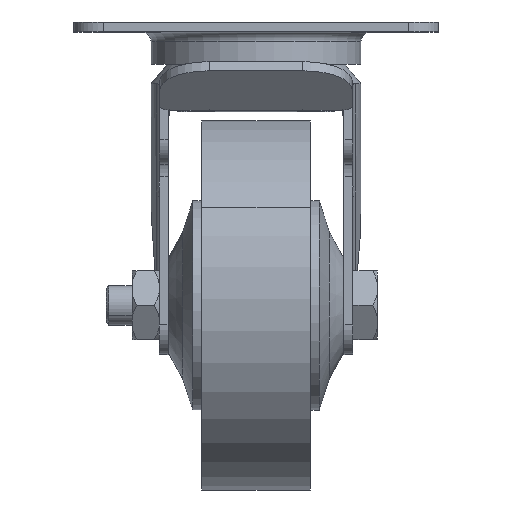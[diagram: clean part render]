
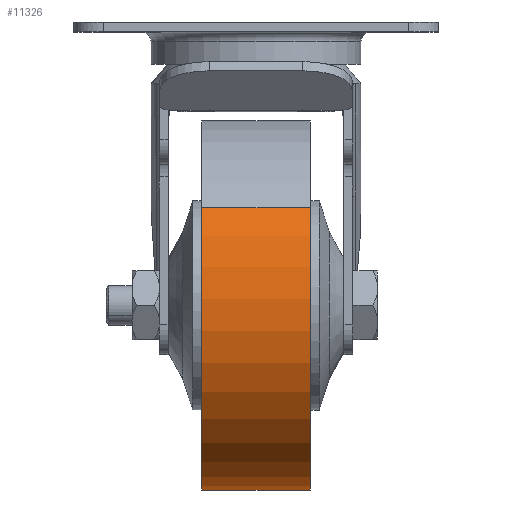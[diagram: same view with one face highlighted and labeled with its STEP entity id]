
A CAD part, top view. The second image highlights one B-rep face of the part: STEP entity #11326.
In plain terms, the highlighted cylindrical face has radius 37.5 mm (diameter 75 mm), a partial arc.
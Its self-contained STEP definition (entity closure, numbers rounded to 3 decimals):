
#474 = CARTESIAN_POINT ( 'NONE',  ( -37.5, 0., 11. ) ) ;
#507 = CARTESIAN_POINT ( 'NONE',  ( 37.5, 0., -11. ) ) ;
#807 = VERTEX_POINT ( 'NONE', #1422 ) ;
#1151 = LINE ( 'NONE', #4708, #3512 ) ;
#1422 = CARTESIAN_POINT ( 'NONE',  ( 37.5, 0., 11. ) ) ;
#1965 = VERTEX_POINT ( 'NONE', #2962 ) ;
#2645 = CARTESIAN_POINT ( 'NONE',  ( -37.5, 0., 11. ) ) ;
#2962 = CARTESIAN_POINT ( 'NONE',  ( -37.5, 0., -11. ) ) ;
#3170 = DIRECTION ( 'NONE',  ( -1., 0., 0. ) ) ;
#3512 = VECTOR ( 'NONE', #8762, 1000. ) ;
#3565 = EDGE_CURVE ( 'NONE', #1965, #7362, #7219, .T. ) ;
#4136 = AXIS2_PLACEMENT_3D ( 'NONE', #9191, #6163, #3170 ) ;
#4244 = CIRCLE ( 'NONE', #12715, 37.5 ) ;
#4285 = ORIENTED_EDGE ( 'NONE', *, *, #7477, .F. ) ;
#4708 = CARTESIAN_POINT ( 'NONE',  ( 37.5, 0., 11. ) ) ;
#4877 = CARTESIAN_POINT ( 'NONE',  ( 0., 0., -11. ) ) ;
#5698 = ORIENTED_EDGE ( 'NONE', *, *, #11053, .F. ) ;
#5771 = DIRECTION ( 'NONE',  ( 0., 0., 1. ) ) ;
#5885 = DIRECTION ( 'NONE',  ( 1., 0., 0. ) ) ;
#6163 = DIRECTION ( 'NONE',  ( 0., 0., -1. ) ) ;
#6184 = EDGE_LOOP ( 'NONE', ( #4285, #5698, #8691, #10125 ) ) ;
#6334 = VERTEX_POINT ( 'NONE', #474 ) ;
#6501 = VECTOR ( 'NONE', #9667, 1000. ) ;
#7219 = CIRCLE ( 'NONE', #11780, 37.5 ) ;
#7362 = VERTEX_POINT ( 'NONE', #507 ) ;
#7429 = EDGE_CURVE ( 'NONE', #6334, #1965, #9173, .T. ) ;
#7477 = EDGE_CURVE ( 'NONE', #807, #7362, #1151, .T. ) ;
#8691 = ORIENTED_EDGE ( 'NONE', *, *, #7429, .T. ) ;
#8762 = DIRECTION ( 'NONE',  ( 0., 0., -1. ) ) ;
#9173 = LINE ( 'NONE', #2645, #6501 ) ;
#9191 = CARTESIAN_POINT ( 'NONE',  ( 0., 0., 11. ) ) ;
#9667 = DIRECTION ( 'NONE',  ( 0., 0., -1. ) ) ;
#10125 = ORIENTED_EDGE ( 'NONE', *, *, #3565, .T. ) ;
#11053 = EDGE_CURVE ( 'NONE', #6334, #807, #4244, .T. ) ;
#11150 = CYLINDRICAL_SURFACE ( 'NONE', #4136, 37.5 ) ;
#11326 = ADVANCED_FACE ( 'NONE', ( #11457 ), #11150, .T. ) ;
#11457 = FACE_OUTER_BOUND ( 'NONE', #6184, .T. ) ;
#11780 = AXIS2_PLACEMENT_3D ( 'NONE', #4877, #11912, #5885 ) ;
#11788 = CARTESIAN_POINT ( 'NONE',  ( 0., 0., 11. ) ) ;
#11912 = DIRECTION ( 'NONE',  ( 0., 0., 1. ) ) ;
#12715 = AXIS2_PLACEMENT_3D ( 'NONE', #11788, #5771, #12803 ) ;
#12803 = DIRECTION ( 'NONE',  ( 1., 0., 0. ) ) ;
